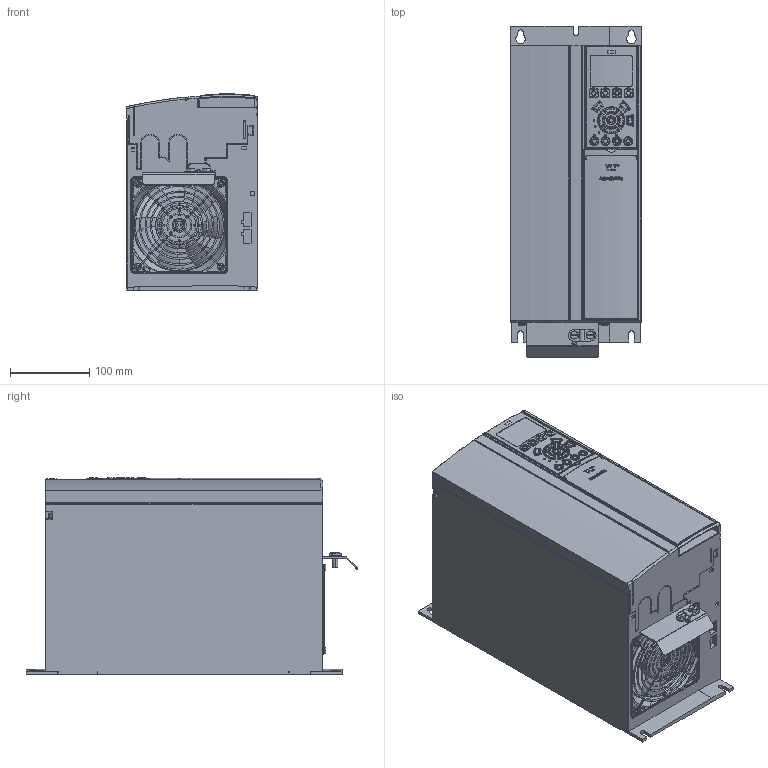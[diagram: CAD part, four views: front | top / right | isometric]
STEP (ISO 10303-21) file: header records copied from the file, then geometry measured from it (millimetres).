
FILE_DESCRIPTION((''),'2;1');
FILE_NAME('DANFOSS-FC300-B3-IP20-096','2007-06-14T',('janardhan.mankala'),('dan Drives A/S'),'PRO/ENGINEER BY PARAMETRIC TECHNOLOGY CORPORATION, 2006200','PRO/ENGINEER BY PARAMETRIC TECHNOLOGY CORPORATION, 2006200','');
FILE_SCHEMA(('CONFIG_CONTROL_DESIGN', 'GEOMETRIC_VALIDATION_PROPERTIES_MIM'));
Products named in the file (1): DANFOSS-FC300-B3-IP20-096
Bounding box: 165.09 x 419 x 247.92 mm (x, y, z)
Volume: 13627318.6 mm3; surface area: 527531.4 mm2
Topology: 2 solids, 19 shells, 3550 faces, 8634 edges, 5238 vertices
Faces by surface type: cylinder 1200, plane 1055, bspline 516, torus 366, extrusion 174, sphere 172, cone 67
Entity records: 175373 total; most frequent: CARTESIAN_POINT 59181, ORIENTED_EDGE 17264, DIRECTION 14726, PRESENTATION_STYLE_ASSIGNMENT 10196, STYLED_ITEM 8932, CURVE_STYLE 8632, EDGE_CURVE 8632, AXIS2_PLACEMENT_3D 5411
